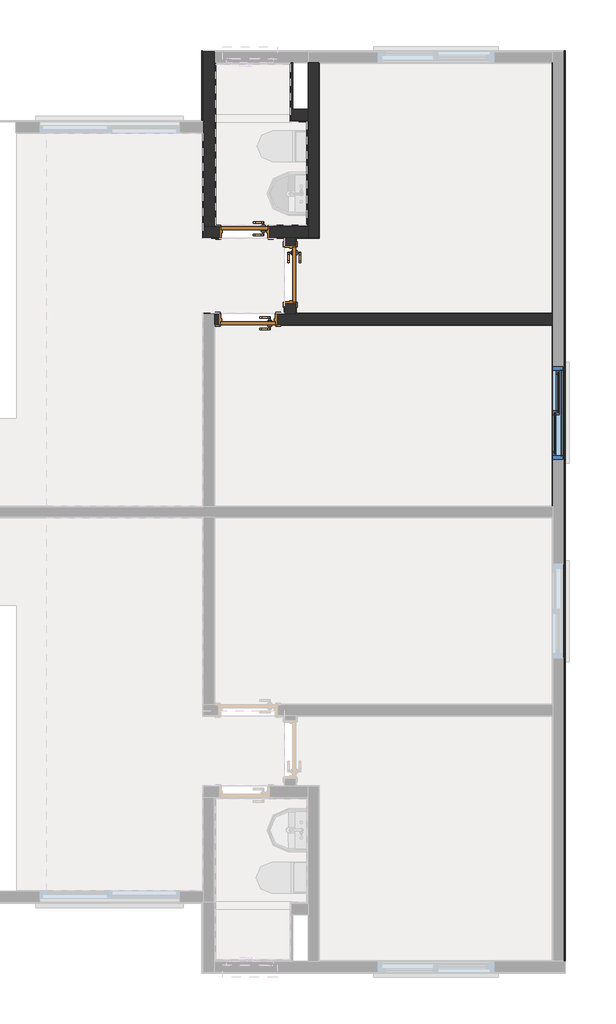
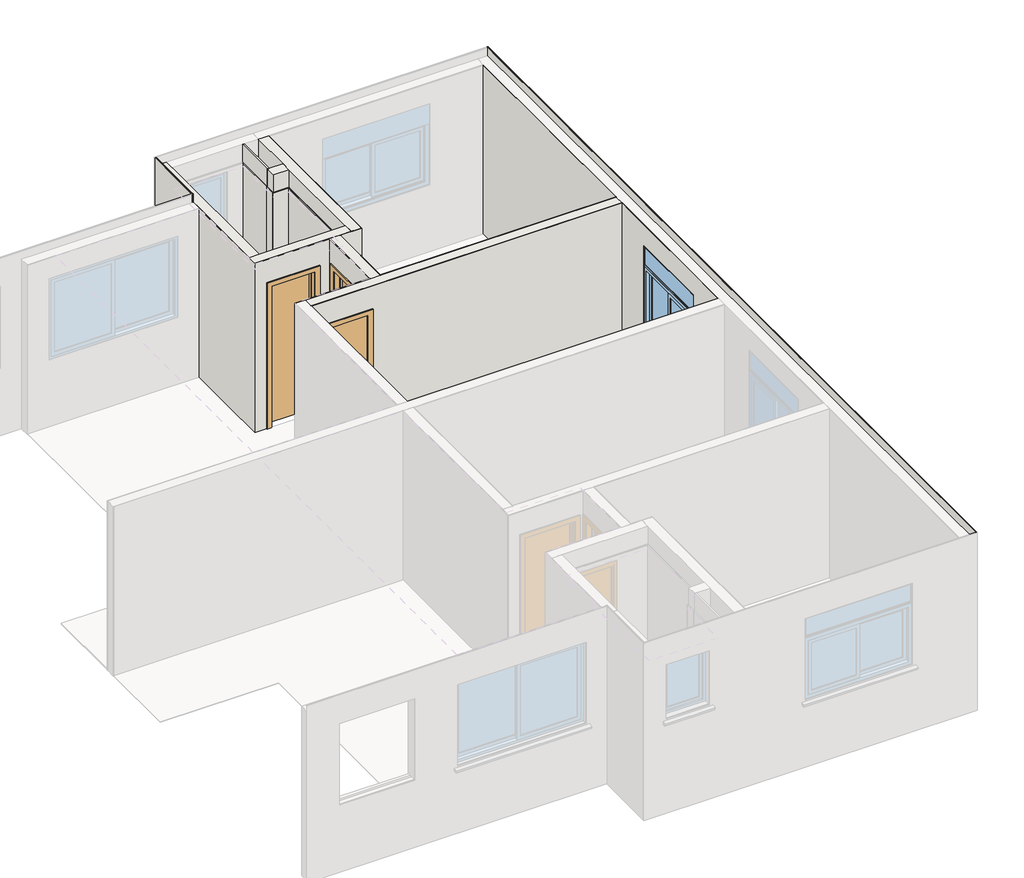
# One storey, part 9 of 11: 27 walls, 3 doors, 1 window.
"""IFC4 building model written with IfcOpenShell, lengths in millimetres."""

from ifc_helpers import new_model, si_unit, frame, origin, origin_with_axes, place, context, project, spatial, polyline, outline, extrude, faceted_brep, transform, mapped, element, save
from components import porta_de_madeira_interna_60_x_210_porta_de_madeira_interna_53f76a03, porta_de_madeira_interna_70_x_210_porta_de_madeira_interna_d0067c94, window_120x120_fed861a7

model = new_model("IFC4")

# Units and contexts
model_context = context("Model", 3, world=origin())
ifc_project = project(units=[si_unit("LENGTHUNIT", "METRE", prefix="MILLI")], contexts=[model_context])

# Site, building, storey
site = spatial("IfcSite", under=ifc_project)
building = spatial("IfcBuilding", under=site)
storey = spatial("IfcBuildingStorey", under=building, Name="Térreo", Elevation=0.0)

# Doors
placement = place(None, origin())
porta_de_madeira_interna_60_x_210_porta_de_madeira_interna_shape = porta_de_madeira_interna_60_x_210_porta_de_madeira_interna_53f76a03(model_context)
element("IfcDoor", 1, ObjectType="Porta de Madeira Interna 60 x 210 : Porta de Madeira Interna 60 x 210", at=placement, inside=storey, context=model_context, shape_type="MappedRepresentation", body=[
    mapped(porta_de_madeira_interna_60_x_210_porta_de_madeira_interna_shape, transform((16681.9956991, 10003.1988664, 0.0), x_axis=(-1.0, 0.0, 0.0), y_axis=(0.0, -1.0, 0.0), z_axis=(0.0, 0.0, 1.0))),
])
porta_de_madeira_interna_70_x_210_porta_de_madeira_interna_shape = porta_de_madeira_interna_70_x_210_porta_de_madeira_interna_d0067c94(model_context)
element("IfcDoor", 2, ObjectType="Porta de Madeira Interna 70 x 210 : Porta de Madeira Interna 70 x 210", at=placement, inside=storey, context=model_context, shape_type="MappedRepresentation", body=[
    mapped(porta_de_madeira_interna_70_x_210_porta_de_madeira_interna_shape, transform((17273.1716432, 9457.0248023, 0.0), x_axis=(0.0, -1.0, 0.0), y_axis=(1.0, 0.0, 0.0), z_axis=(0.0, 0.0, 1.0))),
])
element("IfcDoor", 3, ObjectType="Porta de Madeira Interna 70 x 210 : Porta de Madeira Interna 70 x 210", at=placement, inside=storey, context=model_context, shape_type="MappedRepresentation", body=[
    mapped(porta_de_madeira_interna_70_x_210_porta_de_madeira_interna_shape, transform((16726.9947994, 8876.8494803, 0.0), x_axis=(-1.0, 0.0, 0.0), y_axis=(0.0, -1.0, 0.0), z_axis=(0.0, 0.0, 1.0))),
])

# Walls
element("IfcWall", 4, ObjectType="Mureta box", at=placement, inside=storey, context=model_context, shape_type="SweptSolid", body=[
    extrude(outline(polyline([(16310.0007274, 11505.0235306), (17290.0007274, 11505.0235306), (17290.0007274, 11495.0235306), (16310.0007274, 11495.0235306), (16310.0007274, 11505.0235306)])), origin_with_axes(), (0.0, 0.0, 1.0), 90.0),
    extrude(outline(polyline([(17290.0007274, 11425.0235306), (16310.0007274, 11425.0235306), (16310.0007274, 11435.0235306), (17290.0007274, 11435.0235306), (17290.0007274, 11425.0235306)])), origin_with_axes(), (0.0, 0.0, 1.0), 90.0),
    extrude(outline(polyline([(16310.0007274, 11505.0235306), (17290.0007274, 11505.0235306), (17290.0007274, 11495.0235306), (16310.0007274, 11495.0235306), (16310.0007274, 11505.0235306)])), origin_with_axes(), (0.0, 0.0, 1.0), 90.0),
    extrude(outline(polyline([(17290.0007274, 11425.0235306), (16310.0007274, 11425.0235306), (16310.0007274, 11435.0235306), (17290.0007274, 11435.0235306), (17290.0007274, 11425.0235306)])), origin_with_axes(), (0.0, 0.0, 1.0), 90.0),
    extrude(outline(polyline([(17290.0007274, 11495.0235306), (17290.0007274, 11435.0235306), (16310.0007274, 11435.0235306), (16310.0007274, 11495.0235306), (17290.0007274, 11495.0235306)])), origin_with_axes(), (0.0, 0.0, 1.0), 90.0),
    extrude(outline(polyline([(17290.0007274, 11495.0235306), (17290.0007274, 11435.0235306), (16310.0007274, 11435.0235306), (16310.0007274, 11495.0235306), (17290.0007274, 11495.0235306)])), origin_with_axes(), (0.0, 0.0, 1.0), 90.0),
])
element("IfcWall", 5, ObjectType="Alvenaria Estrutural", at=placement, inside=storey, context=model_context, shape_type="Brep", body=[
    faceted_brep([(17339.9966432, 9930.0238664, 2510.0), (17339.9966432, 9924.0238664, 2510.0), (17339.9966432, 8950.0244803, 2510.0), (17339.9966432, 8950.0244803, 0.0), (17339.9966432, 9082.0248023, 0.0), (17339.9966432, 9082.0248023, 2125.0), (17339.9966432, 9832.0248023, 2125.0), (17339.9966432, 9832.0248023, 0.0), (17339.9966432, 9924.0238664, 0.0), (17339.9966432, 9930.0238664, 0.0), (17199.9966432, 8950.0244803, 2510.0), (17199.9966432, 8956.0244803, 2510.0), (17199.9966432, 9924.0238664, 2510.0), (17199.9966432, 9930.0238664, 2510.0), (17199.9966432, 9930.0238664, 0.0), (17199.9966432, 9924.0238664, 0.0), (17199.9966432, 9832.0248023, 0.0), (17199.9966432, 9832.0248023, 2125.0), (17199.9966432, 9082.0248023, 2125.0), (17199.9966432, 9082.0248023, 0.0), (17199.9966432, 8956.0244803, 0.0), (17199.9966432, 8950.0244803, 0.0)], [[[0, 1, 2, 3, 4, 5, 6, 7, 8, 9]], [[10, 11, 12, 13, 14, 15, 16, 17, 18, 19, 20, 21]], [[4, 3, 21, 20, 19]], [[1, 0, 13, 12, 11, 10, 2]], [[5, 4, 19, 18]], [[6, 5, 18, 17]], [[7, 6, 17, 16]], [[3, 2, 10, 21]], [[0, 9, 14, 13]], [[8, 7, 16, 15, 14, 9]]]),
    faceted_brep([(17339.9966432, 9924.0238664, 2510.0), (17339.9966432, 9930.0238664, 2510.0), (17199.9966432, 9930.0238664, 2510.0), (17199.9966432, 9924.0238664, 2510.0), (17199.9966432, 8956.0244803, 2510.0), (17199.9966432, 8950.0244803, 2510.0), (17339.9966432, 8950.0244803, 2510.0), (17339.9966432, 9082.0248023, 2125.0), (17339.9966432, 9082.0248023, 0.0), (17199.9966432, 9082.0248023, 0.0), (17199.9966432, 9082.0248023, 2125.0), (17339.9966432, 9832.0248023, 2125.0), (17199.9966432, 9832.0248023, 2125.0), (17339.9966432, 9832.0248023, 0.0), (17199.9966432, 9832.0248023, 0.0), (17339.9966432, 8950.0244803, 0.0), (17339.9966432, 9924.0238664, 0.0), (17339.9966432, 9930.0238664, 0.0), (17199.9966432, 9930.0238664, 0.0), (17199.9966432, 9924.0238664, 0.0), (17199.9966432, 8956.0244803, 0.0), (17199.9966432, 8950.0244803, 0.0)], [[[0, 1, 2, 3, 4, 5, 6]], [[7, 8, 9, 10]], [[11, 7, 10, 12]], [[13, 11, 12, 14]], [[1, 0, 6, 15, 8, 7, 11, 13, 16, 17]], [[5, 4, 3, 2, 18, 19, 14, 12, 10, 9, 20, 21]], [[8, 15, 21, 20, 9]], [[15, 6, 5, 21]], [[1, 17, 18, 2]], [[16, 13, 14, 19, 18, 17]]]),
])
element("IfcWall", 6, ObjectType="Alvenaria Estrutural", at=placement, inside=storey, context=model_context, shape_type="Brep", body=[
    faceted_brep([(17499.9970013, 12180.0252435, 0.0), (17499.9970013, 11580.0235306, 0.0), (17499.9970013, 11440.0235306, 0.0), (17499.9970013, 11420.0235306, 0.0), (17499.9970013, 10090.0238664, 0.0), (17499.9970013, 10070.0238664, 0.0), (17499.9970013, 9930.025593, 0.0), (17499.9970013, 9930.025593, 2510.0), (17499.9970013, 10070.0238664, 2510.0), (17499.9970013, 11440.0235306, 2510.0), (17499.9970013, 11580.0235306, 2510.0), (17499.9970013, 12180.0252435, 2510.0), (17639.9970013, 12180.0252435, 0.0), (17639.9970013, 12180.0252435, 2510.0), (17639.9970013, 12174.0253822, 2510.0), (17639.9970013, 9930.025593, 2510.0), (17639.9970013, 9930.025593, 0.0), (17639.9970013, 12174.0253822, 0.0)], [[[0, 1, 2, 3, 4, 5, 6, 7, 8, 9, 10, 11]], [[12, 13, 14, 15, 16, 17]], [[1, 0, 12, 17, 16, 6, 5, 4, 3, 2]], [[7, 6, 16, 15]], [[8, 7, 15, 14, 13, 11, 10, 9]], [[0, 11, 13, 12]]]),
    faceted_brep([(17639.9970013, 12180.0252435, 0.0), (17639.9970013, 12180.0252435, 2510.0), (17639.9970013, 12174.0253822, 2510.0), (17639.9970013, 9930.025593, 2510.0), (17639.9970013, 9930.025593, 0.0), (17639.9970013, 12174.0253822, 0.0), (17499.9970013, 11580.0235306, 0.0), (17499.9970013, 12180.0252435, 0.0), (17499.9970013, 9930.025593, 0.0), (17499.9970013, 10070.0238664, 0.0), (17499.9970013, 10090.0238664, 0.0), (17499.9970013, 11420.0235306, 0.0), (17499.9970013, 11440.0235306, 0.0), (17499.9970013, 9930.025593, 2510.0), (17499.9970013, 10070.0238664, 2510.0), (17499.9970013, 12180.0252435, 2510.0), (17499.9970013, 11580.0235306, 2510.0), (17499.9970013, 11440.0235306, 2510.0)], [[[0, 1, 2, 3, 4, 5]], [[6, 7, 0, 5, 4, 8, 9, 10, 11, 12]], [[13, 8, 4, 3]], [[14, 13, 3, 2, 1, 15, 16, 17]], [[7, 6, 12, 11, 10, 9, 8, 13, 14, 17, 16, 15]], [[7, 15, 1, 0]]]),
])
element("IfcWall", 7, ObjectType="Alvenaria Estrutural", at=placement, inside=storey, context=model_context, shape_type="Brep", body=[
    faceted_brep([(17499.9970013, 11580.0235306, 0.0), (17303.0007274, 11580.0235306, 0.0), (17280.0007274, 11580.0235306, 0.0), (17280.0007274, 11580.0235306, 2510.0), (17303.0007274, 11580.0235306, 2510.0), (17499.9970013, 11580.0235306, 2510.0), (17499.9970013, 11440.0235306, 0.0), (17499.9970013, 11440.0235306, 2510.0), (17280.0007274, 11440.0235306, 2510.0), (17280.0007274, 11440.0235306, 0.0)], [[[0, 1, 2, 3, 4, 5]], [[6, 7, 8, 9]], [[1, 0, 6, 9, 2]], [[4, 3, 8, 7, 5]], [[3, 2, 9, 8]], [[0, 5, 7, 6]]]),
    faceted_brep([(17499.9970013, 11440.0235306, 0.0), (17499.9970013, 11440.0235306, 2510.0), (17280.0007274, 11440.0235306, 2510.0), (17280.0007274, 11440.0235306, 0.0), (17303.0007274, 11580.0235306, 0.0), (17499.9970013, 11580.0235306, 0.0), (17280.0007274, 11580.0235306, 0.0), (17303.0007274, 11580.0235306, 2510.0), (17280.0007274, 11580.0235306, 2510.0), (17499.9970013, 11580.0235306, 2510.0)], [[[0, 1, 2, 3]], [[4, 5, 0, 3, 6]], [[7, 8, 2, 1, 9]], [[5, 4, 6, 8, 7, 9]], [[8, 6, 3, 2]], [[5, 9, 1, 0]]]),
])
element("IfcWall", 8, ObjectType="Alvenaria Estrutural", at=placement, inside=storey, context=model_context, shape_type="Brep", body=[
    faceted_brep([(16149.9960602, 10070.0238664, 2510.0), (16289.9960602, 10070.0238664, 2510.0), (17499.9970013, 10070.0238664, 2510.0), (17499.9970013, 10070.0238664, 2250.0), (17499.9970013, 10070.0238664, 0.0), (17006.9956991, 10070.0238664, 0.0), (17006.9956991, 10070.0238664, 2125.0), (16356.9956991, 10070.0238664, 2125.0), (16356.9956991, 10070.0238664, 0.0), (16289.9960602, 10070.0238664, 0.0), (16149.9960602, 10070.0238664, 0.0), (17499.9970013, 9930.0238664, 2510.0), (17339.9966432, 9930.0238664, 2510.0), (17199.9966432, 9930.0238664, 2510.0), (17193.9966432, 9930.0238664, 2510.0), (16149.9960602, 9930.0238664, 2510.0), (16149.9960602, 9930.0238664, 0.0), (16356.9956991, 9930.0238664, 0.0), (16356.9956991, 9930.0238664, 2125.0), (17006.9956991, 9930.0238664, 2125.0), (17006.9956991, 9930.0238664, 0.0), (17193.9966432, 9930.0238664, 0.0), (17199.9966432, 9930.0238664, 0.0), (17339.9966432, 9930.0238664, 0.0), (17499.9970013, 9930.0238664, 0.0)], [[[0, 1, 2, 3, 4, 5, 6, 7, 8, 9, 10]], [[11, 12, 13, 14, 15, 16, 17, 18, 19, 20, 21, 22, 23, 24]], [[5, 4, 24, 23, 22, 21, 20]], [[1, 0, 15, 14, 13, 12, 11, 2]], [[8, 7, 18, 17]], [[7, 6, 19, 18]], [[6, 5, 20, 19]], [[0, 10, 16, 15]], [[3, 2, 11, 24, 4]], [[9, 8, 17, 16, 10]]]),
    faceted_brep([(17006.9956991, 10070.0238664, 0.0), (17499.9970013, 10070.0238664, 0.0), (17499.9970013, 9930.0238664, 0.0), (17339.9966432, 9930.0238664, 0.0), (17199.9966432, 9930.0238664, 0.0), (17193.9966432, 9930.0238664, 0.0), (17006.9956991, 9930.0238664, 0.0), (16289.9960602, 10070.0238664, 2510.0), (16149.9960602, 10070.0238664, 2510.0), (16149.9960602, 9930.0238664, 2510.0), (17193.9966432, 9930.0238664, 2510.0), (17199.9966432, 9930.0238664, 2510.0), (17339.9966432, 9930.0238664, 2510.0), (17499.9970013, 9930.0238664, 2510.0), (17499.9970013, 10070.0238664, 2510.0), (16356.9956991, 10070.0238664, 0.0), (16356.9956991, 10070.0238664, 2125.0), (16356.9956991, 9930.0238664, 2125.0), (16356.9956991, 9930.0238664, 0.0), (17006.9956991, 10070.0238664, 2125.0), (17006.9956991, 9930.0238664, 2125.0), (16289.9960602, 10070.0238664, 0.0), (16149.9960602, 9930.0238664, 0.0), (16149.9960602, 10070.0238664, 0.0), (17499.9970013, 10070.0238664, 2250.0)], [[[0, 1, 2, 3, 4, 5, 6]], [[7, 8, 9, 10, 11, 12, 13, 14]], [[15, 16, 17, 18]], [[16, 19, 20, 17]], [[19, 0, 6, 20]], [[21, 15, 18, 22, 23]], [[8, 7, 14, 24, 1, 0, 19, 16, 15, 21, 23]], [[13, 12, 11, 10, 9, 22, 18, 17, 20, 6, 5, 4, 3, 2]], [[8, 23, 22, 9]], [[24, 14, 13, 2, 1]]]),
])
element("IfcWall", 9, ObjectType="Alvenaria Estrutural", at=placement, inside=storey, context=model_context, shape_type="Brep", body=[
    faceted_brep([(16149.9960602, 12320.025593, 0.0), (16149.9960602, 11436.0223004, 0.0), (16149.9960602, 11420.0223004, 0.0), (16149.9960602, 11280.0223004, 0.0), (16149.9960602, 11274.0223004, 0.0), (16149.9960602, 10070.0238664, 0.0), (16149.9960602, 10070.0238664, 2510.0), (16149.9960602, 11274.0223004, 2510.0), (16149.9960602, 11280.0223004, 2510.0), (16149.9960602, 11420.0223004, 2510.0), (16149.9960602, 12320.025593, 2510.0), (16289.9960602, 12320.025593, 0.0), (16289.9960602, 12320.025593, 2510.0), (16289.9960602, 12180.025593, 2510.0), (16289.9960602, 10070.0238664, 2510.0), (16289.9960602, 10070.0238664, 2250.0), (16289.9960602, 10070.0238664, 0.0), (16289.9960602, 10090.0238664, 0.0), (16289.9960602, 12180.025593, 0.0)], [[[0, 1, 2, 3, 4, 5, 6, 7, 8, 9, 10]], [[11, 12, 13, 14, 15, 16, 17, 18]], [[1, 0, 11, 18, 17, 16, 5, 4, 3, 2]], [[7, 6, 14, 13, 12, 10, 9, 8]], [[0, 10, 12, 11]], [[6, 5, 16, 15, 14]]]),
    faceted_brep([(16149.9960602, 11436.0223004, 0.0), (16149.9960602, 12320.025593, 0.0), (16289.9960602, 12320.025593, 0.0), (16289.9960602, 12180.025593, 0.0), (16289.9960602, 10090.0238664, 0.0), (16289.9960602, 10070.0238664, 0.0), (16149.9960602, 10070.0238664, 0.0), (16149.9960602, 11274.0223004, 0.0), (16149.9960602, 11280.0223004, 0.0), (16149.9960602, 11420.0223004, 0.0), (16149.9960602, 11274.0223004, 2510.0), (16149.9960602, 10070.0238664, 2510.0), (16289.9960602, 10070.0238664, 2510.0), (16289.9960602, 12180.025593, 2510.0), (16289.9960602, 12320.025593, 2510.0), (16149.9960602, 12320.025593, 2510.0), (16149.9960602, 11420.0223004, 2510.0), (16149.9960602, 11280.0223004, 2510.0), (16289.9960602, 10070.0238664, 2250.0)], [[[0, 1, 2, 3, 4, 5, 6, 7, 8, 9]], [[10, 11, 12, 13, 14, 15, 16, 17]], [[1, 0, 9, 8, 7, 6, 11, 10, 17, 16, 15]], [[2, 14, 13, 12, 18, 5, 4, 3]], [[1, 15, 14, 2]], [[11, 6, 5, 18, 12]]]),
])
element("IfcWall", 10, ObjectType="Alvenaria Estrutural", at=placement, inside=storey, context=model_context, shape_type="Brep", body=[
    faceted_brep([(20649.9955249, 8810.0244803, 2510.0), (20643.9955249, 8810.0244803, 2510.0), (16295.9950207, 8810.0244803, 2510.0), (16289.9950207, 8810.0244803, 2510.0), (16289.9950207, 8810.0244803, 0.0), (16295.9950207, 8810.0244803, 0.0), (16351.9947994, 8810.0244803, 0.0), (16351.9947994, 8810.0244803, 2125.0), (17101.9947994, 8810.0244803, 2125.0), (17101.9947994, 8810.0244803, 0.0), (20643.9955249, 8810.0244803, 0.0), (20649.9955249, 8810.0244803, 0.0), (16289.9950207, 8950.0244803, 2510.0), (17193.9966432, 8950.0244803, 2510.0), (17199.9966432, 8950.0244803, 2510.0), (17339.9966432, 8950.0244803, 2510.0), (17345.9966432, 8950.0244803, 2510.0), (20643.9955249, 8950.0244803, 2510.0), (20649.9955249, 8950.0244803, 2510.0), (20649.9955249, 8950.0244803, 0.0), (20643.9955249, 8950.0244803, 0.0), (17345.9966432, 8950.0244803, 0.0), (17339.9966432, 8950.0244803, 0.0), (17199.9966432, 8950.0244803, 0.0), (17193.9966432, 8950.0244803, 0.0), (17101.9947994, 8950.0244803, 0.0), (17101.9947994, 8950.0244803, 2125.0), (16351.9947994, 8950.0244803, 2125.0), (16351.9947994, 8950.0244803, 0.0), (16289.9950207, 8950.0244803, 0.0)], [[[0, 1, 2, 3, 4, 5, 6, 7, 8, 9, 10, 11]], [[12, 13, 14, 15, 16, 17, 18, 19, 20, 21, 22, 23, 24, 25, 26, 27, 28, 29]], [[5, 4, 29, 28, 6]], [[1, 0, 18, 17, 16, 15, 14, 13, 12, 3, 2]], [[7, 6, 28, 27]], [[8, 7, 27, 26]], [[9, 8, 26, 25]], [[4, 3, 12, 29]], [[0, 11, 19, 18]], [[10, 9, 25, 24, 23, 22, 21, 20, 19, 11]]]),
])
element("IfcWall", 11, ObjectType="Azulejo", at=placement, inside=storey, context=model_context, shape_type="SolidModel", body=[
    faceted_brep([(17006.9956991, 10080.0238664, 0.0), (17006.9956991, 10090.0238664, 0.0), (17479.9970535, 10090.0238664, 0.0), (17489.9970535, 10090.0238664, 0.0), (17489.9970535, 10080.0238664, 0.0), (17479.9970535, 10090.0238664, 2250.0), (16309.9956991, 10090.0238664, 2250.0), (16299.9956991, 10090.0238664, 2250.0), (16299.9956991, 10080.0238664, 2250.0), (17489.9970535, 10080.0238664, 2250.0), (17489.9970535, 10090.0238664, 2250.0), (16356.9956991, 10090.0238664, 0.0), (16356.9956991, 10090.0238664, 2125.0), (16356.9956991, 10080.0238664, 2125.0), (16356.9956991, 10080.0238664, 0.0), (17006.9956991, 10090.0238664, 2125.0), (17006.9956991, 10080.0238664, 2125.0), (16299.9956991, 10080.0238664, 0.0), (16299.9956991, 10090.0238664, 0.0), (16309.9956991, 10090.0238664, 0.0)], [[[0, 1, 2, 3, 4]], [[5, 6, 7, 8, 9, 10]], [[11, 12, 13, 14]], [[13, 12, 15, 16]], [[1, 0, 16, 15]], [[11, 14, 17, 18, 19]], [[14, 13, 16, 0, 4, 9, 8, 17]], [[2, 1, 15, 12, 11, 19, 18, 7, 6, 5, 10, 3]], [[4, 3, 10, 9]], [[8, 7, 18, 17]]]),
    extrude(outline(polyline([(2250.0, 17499.9970013), (2250.0, 16289.9960602), (0.0, 16289.9960602), (0.0, 16356.9956991), (2125.0, 16356.9956991), (2125.0, 17006.9956991), (0.0, 17006.9956991), (0.0, 17499.9970013), (2250.0, 17499.9970013)])), frame((0.0, 10070.0238664, 0.0), z_axis=(0.0, 1.0, 0.0), x_axis=(0.0, 0.0, 1.0)), (0.0, 0.0, 1.0), 10.0),
])
element("IfcWall", 12, ObjectType="Azulejo", at=placement, inside=storey, context=model_context, shape_type="SolidModel", body=[
    faceted_brep([(16309.9956991, 12160.025593, 0.0), (16309.9956991, 10090.0238664, 0.0), (16299.9956991, 10090.0238664, 0.0), (16299.9956991, 12170.025593, 0.0), (16309.9956991, 12170.025593, 0.0), (16299.9956991, 10090.0238664, 2250.0), (16309.9956991, 10090.0238664, 2250.0), (16309.9956991, 12160.025593, 2250.0), (16309.9956991, 12170.025593, 2250.0), (16299.9956991, 12170.025593, 2250.0)], [[[0, 1, 2, 3, 4]], [[5, 6, 7, 8, 9]], [[2, 1, 6, 5]], [[2, 5, 9, 3]], [[1, 0, 4, 8, 7, 6]], [[4, 3, 9, 8]]]),
    extrude(outline(polyline([(16289.9956991, 10080.0238664), (16289.9956991, 12180.025593), (16299.9956991, 12180.025593), (16299.9956991, 10080.0238664), (16289.9956991, 10080.0238664)])), origin_with_axes(), (0.0, 0.0, 1.0), 2250.0),
])
element("IfcWall", 13, ObjectType="Azulejo", at=placement, inside=storey, context=model_context, shape_type="SweptSolid", body=[
    extrude(outline(polyline([(17270.0007274, 11430.0235306), (17270.0007274, 11580.0235306), (17280.0007274, 11580.0235306), (17280.0007274, 11430.0235306), (17270.0007274, 11430.0235306)])), origin_with_axes(), (0.0, 0.0, 1.0), 2250.0),
    extrude(outline(polyline([(17290.0007274, 11580.0235306), (17290.0007274, 11440.0235306), (17280.0007274, 11440.0235306), (17280.0007274, 11580.0235306), (17290.0007274, 11580.0235306)])), origin_with_axes(), (0.0, 0.0, 1.0), 2250.0),
])
element("IfcWall", 14, ObjectType="Azulejo", at=placement, inside=storey, context=model_context, shape_type="Brep", body=[
    faceted_brep([(17479.9970535, 11420.0235306, 0.0), (17270.0007274, 11420.0235306, 0.0), (17270.0007274, 11430.0235306, 0.0), (17489.9970535, 11430.0235306, 0.0), (17489.9970535, 11420.0235306, 0.0), (17270.0007274, 11430.0235306, 2250.0), (17270.0007274, 11420.0235306, 2250.0), (17479.9970535, 11420.0235306, 2250.0), (17489.9970535, 11420.0235306, 2250.0), (17489.9970535, 11430.0235306, 2250.0)], [[[0, 1, 2, 3, 4]], [[5, 6, 7, 8, 9]], [[2, 1, 6, 5]], [[2, 5, 9, 3]], [[1, 0, 4, 8, 7, 6]], [[4, 3, 9, 8]]]),
    faceted_brep([(17280.0007274, 11430.0235306, 0.0), (17499.9970013, 11430.0235306, 0.0), (17499.9970013, 11430.0235306, 2250.0), (17280.0007274, 11430.0235306, 2250.0), (17499.9970013, 11440.0235306, 0.0), (17290.0007274, 11440.0235306, 0.0), (17280.0007274, 11440.0235306, 0.0), (17280.0007274, 11440.0235306, 2250.0), (17290.0007274, 11440.0235306, 2250.0), (17499.9970013, 11440.0235306, 2250.0)], [[[0, 1, 2, 3]], [[4, 5, 6, 7, 8, 9]], [[5, 4, 1, 0, 6]], [[8, 7, 3, 2, 9]], [[4, 9, 2, 1]], [[7, 6, 0, 3]]]),
])
element("IfcWall", 15, ObjectType="Azulejo", at=placement, inside=storey, context=model_context, shape_type="SweptSolid", body=[
    extrude(outline(polyline([(17479.9970535, 10090.0238664), (17479.9970535, 11420.0235306), (17489.9970535, 11420.0235306), (17489.9970535, 10090.0238664), (17479.9970535, 10090.0238664)])), origin_with_axes(), (0.0, 0.0, 1.0), 2250.0),
    extrude(outline(polyline([(17499.9970535, 11430.0235306), (17499.9970535, 10080.0238664), (17489.9970535, 10080.0238664), (17489.9970535, 11430.0235306), (17499.9970535, 11430.0235306)])), origin_with_axes(), (0.0, 0.0, 1.0), 2250.0),
])
element("IfcWall", 16, ObjectType="Azulejo - Shaft", at=placement, inside=storey, context=model_context, shape_type="SweptSolid", body=[
    extrude(outline(polyline([(17270.0007274, 11580.0235306), (17270.0007274, 12160.025593), (17280.0007274, 12160.025593), (17280.0007274, 11580.0235306), (17270.0007274, 11580.0235306)])), origin_with_axes(), (0.0, 0.0, 1.0), 2250.0),
])
element("IfcWall", 17, ObjectType="Gesso Liso + Pintura", at=placement, inside=storey, context=model_context, shape_type="SweptSolid", body=[
    extrude(outline(polyline([(6470.0103139, 0.0), (6470.0103139, 2510.0), (8810.0244803, 2510.0), (8810.0244803, 0.0), (6470.0103139, 0.0)]), holes=[polyline([(7075.01044, 1000.0), (8275.01044, 1000.0), (8275.01044, 2200.0), (7075.01044, 2200.0), (7075.01044, 1000.0)])]), frame((20643.9955249, 0.0, 0.0), z_axis=(1.0, 0.0, 0.0), x_axis=(0.0, 1.0, 0.0)), (0.0, 0.0, 1.0), 1.0),
    extrude(outline(polyline([(8810.0244803, 0.0), (6470.0103139, 0.0), (6470.0103139, 2510.0), (8810.0244803, 2510.0), (8810.0244803, 0.0)]), holes=[polyline([(7075.01044, 2200.0), (7075.01044, 1000.0), (8275.01044, 1000.0), (8275.01044, 2200.0), (7075.01044, 2200.0)])]), frame((20644.9955249, 0.0, 0.0), z_axis=(1.0, 0.0, 0.0), x_axis=(0.0, 1.0, 0.0)), (0.0, 0.0, 1.0), 5.0),
])
element("IfcWall", 18, ObjectType="Gesso Liso + Pintura", at=placement, inside=storey, context=model_context, shape_type="SweptSolid", body=[
    extrude(outline(polyline([(2510.0, 20649.9955249), (2510.0, 16289.9950207), (0.0, 16289.9950207), (0.0, 16351.9947994), (2125.0, 16351.9947994), (2125.0, 17101.9947994), (0.0, 17101.9947994), (0.0, 20649.9955249), (2510.0, 20649.9955249)])), frame((0.0, 8804.0244803, 0.0), z_axis=(0.0, 1.0, 0.0), x_axis=(0.0, 0.0, 1.0)), (0.0, 0.0, 1.0), 1.0),
    extrude(outline(polyline([(0.0, 17101.9947994), (0.0, 20649.9955249), (2510.0, 20649.9955249), (2510.0, 16289.9950207), (0.0, 16289.9950207), (0.0, 16351.9947994), (2125.0, 16351.9947994), (2125.0, 17101.9947994), (0.0, 17101.9947994)])), frame((0.0, 8805.0244803, 0.0), z_axis=(0.0, 1.0, 0.0), x_axis=(0.0, 0.0, 1.0)), (0.0, 0.0, 1.0), 5.0),
])
element("IfcWall", 19, ObjectType="Gesso Liso + Pintura", at=placement, inside=storey, context=model_context, shape_type="SolidModel", body=[
    faceted_brep([(20644.9955249, 8950.0244803, 0.0), (20643.9955249, 8950.0244803, 0.0), (20643.9955249, 12174.0253822, 0.0), (20643.9955249, 12175.0253822, 0.0), (20644.9955249, 12175.0253822, 0.0), (20643.9955249, 12174.0253822, 2510.0), (20643.9955249, 8950.0244803, 2510.0), (20644.9955249, 8950.0244803, 2510.0), (20644.9955249, 12175.0253822, 2510.0), (20643.9955249, 12175.0253822, 2510.0)], [[[0, 1, 2, 3, 4]], [[5, 6, 7, 8, 9]], [[1, 0, 7, 6]], [[7, 0, 4, 8]], [[2, 1, 6, 5, 9, 3]], [[4, 3, 9, 8]]]),
    extrude(outline(polyline([(20649.9955249, 12180.0252435), (20649.9955249, 8950.0244803), (20644.9955249, 8950.0244803), (20644.9955249, 12180.0252435), (20649.9955249, 12180.0252435)])), origin_with_axes(), (0.0, 0.0, 1.0), 2510.0),
])
element("IfcWall", 20, ObjectType="Gesso Liso + Pintura", at=placement, inside=storey, context=model_context, shape_type="SolidModel", body=[
    extrude(outline(polyline([(17645.9970535, 12174.0253822), (17645.9970535, 9924.0238664), (17644.9970535, 9924.0238664), (17644.9970535, 12174.0253822), (17645.9970535, 12174.0253822)])), origin_with_axes(), (0.0, 0.0, 1.0), 2510.0),
    faceted_brep([(17644.9970535, 9925.0238664, 0.0), (17644.9970535, 12175.0253822, 0.0), (17644.9970535, 12175.0253822, 2510.0), (17644.9970535, 9925.0238664, 2510.0), (17639.9970535, 12175.0253822, 0.0), (17639.9970535, 9930.0238664, 0.0), (17639.9970535, 9925.0238664, 0.0), (17639.9970535, 9925.0238664, 2510.0), (17639.9970535, 9930.0238664, 2510.0), (17639.9970535, 12175.0253822, 2510.0)], [[[0, 1, 2, 3]], [[4, 5, 6, 7, 8, 9]], [[5, 4, 1, 0, 6]], [[8, 7, 3, 2, 9]], [[4, 9, 2, 1]], [[7, 6, 0, 3]]]),
])
element("IfcWall", 21, ObjectType="Gesso Liso + Pintura", at=placement, inside=storey, context=model_context, shape_type="SolidModel", body=[
    faceted_brep([(17644.9970535, 9924.0238664, 0.0), (17345.9966432, 9924.0238664, 0.0), (17344.9966432, 9924.0238664, 0.0), (17344.9966432, 9925.0238664, 0.0), (17644.9970535, 9925.0238664, 0.0), (17345.9966432, 9924.0238664, 2510.0), (17644.9970535, 9924.0238664, 2510.0), (17644.9970535, 9925.0238664, 2510.0), (17344.9966432, 9925.0238664, 2510.0), (17344.9966432, 9924.0238664, 2510.0)], [[[0, 1, 2, 3, 4]], [[5, 6, 7, 8, 9]], [[7, 4, 3, 8]], [[1, 0, 6, 5, 9, 2]], [[6, 0, 4, 7]], [[3, 2, 9, 8]]]),
    extrude(outline(polyline([(17339.9966432, 9930.0238664), (17639.9970535, 9930.0238664), (17639.9970535, 9925.0238664), (17339.9966432, 9925.0238664), (17339.9966432, 9930.0238664)])), origin_with_axes(), (0.0, 0.0, 1.0), 2510.0),
])
element("IfcWall", 22, ObjectType="Gesso Liso + Pintura", at=placement, inside=storey, context=model_context, shape_type="SolidModel", body=[
    faceted_brep([(17345.9966432, 9924.0238664, 0.0), (17345.9966432, 9832.0248023, 0.0), (17344.9966432, 9832.0248023, 0.0), (17344.9966432, 9924.0238664, 0.0), (17345.9966432, 8956.0244803, 2510.0), (17345.9966432, 9924.0238664, 2510.0), (17344.9966432, 9924.0238664, 2510.0), (17344.9966432, 8955.0244803, 2510.0), (17345.9966432, 8955.0244803, 2510.0), (17345.9966432, 9082.0248023, 2125.0), (17345.9966432, 9082.0248023, 0.0), (17344.9966432, 9082.0248023, 0.0), (17344.9966432, 9082.0248023, 2125.0), (17344.9966432, 9832.0248023, 2125.0), (17345.9966432, 9832.0248023, 2125.0), (17345.9966432, 8956.0244803, 0.0), (17345.9966432, 8955.0244803, 0.0), (17344.9966432, 8955.0244803, 0.0)], [[[0, 1, 2, 3]], [[4, 5, 6, 7, 8]], [[9, 10, 11, 12]], [[9, 12, 13, 14]], [[2, 1, 14, 13]], [[0, 3, 6, 5]], [[11, 10, 15, 16, 17]], [[3, 2, 13, 12, 11, 17, 7, 6]], [[1, 0, 5, 4, 8, 16, 15, 10, 9, 14]], [[8, 7, 17, 16]]]),
    extrude(outline(polyline([(8950.0244803, 2510.0), (9925.0238664, 2510.0), (9925.0238664, 0.0), (9832.0248023, 0.0), (9832.0248023, 2125.0), (9082.0248023, 2125.0), (9082.0248023, 0.0), (8950.0244803, 0.0), (8950.0244803, 2510.0)])), frame((17339.9966432, 0.0, 0.0), z_axis=(1.0, 0.0, 0.0), x_axis=(0.0, 1.0, 0.0)), (0.0, 0.0, 1.0), 5.0),
])
element("IfcWall", 23, ObjectType="Gesso Liso + Pintura", at=placement, inside=storey, context=model_context, shape_type="SweptSolid", body=[
    extrude(outline(polyline([(17345.9966432, 8956.0244803), (20649.9955249, 8956.0244803), (20649.9955249, 8955.0244803), (17345.9966432, 8955.0244803), (17345.9966432, 8956.0244803)])), origin_with_axes(), (0.0, 0.0, 1.0), 2510.0),
    extrude(outline(polyline([(20649.9955249, 8950.0244803), (17344.9966432, 8950.0244803), (17344.9966432, 8955.0244803), (20649.9955249, 8955.0244803), (20649.9955249, 8950.0244803)])), origin_with_axes(), (0.0, 0.0, 1.0), 2510.0),
])
element("IfcWall", 24, ObjectType="Gesso Liso + Pintura", at=placement, inside=storey, context=model_context, shape_type="SolidModel", body=[
    extrude(outline(polyline([(16143.9956991, 9924.0238664), (16143.9956991, 11280.0223004), (16144.9956991, 11280.0223004), (16144.9956991, 9924.0238664), (16143.9956991, 9924.0238664)])), origin_with_axes(), (0.0, 0.0, 1.0), 2510.0),
    faceted_brep([(16144.9956991, 11280.0223004, 0.0), (16144.9956991, 9925.0238664, 0.0), (16144.9956991, 9925.0238664, 2510.0), (16144.9956991, 11280.0223004, 2510.0), (16149.9956991, 11280.0223004, 0.0), (16149.9956991, 11280.0223004, 2510.0), (16149.9956991, 9930.0238664, 2510.0), (16149.9956991, 9925.0238664, 2510.0), (16149.9956991, 9925.0238664, 0.0), (16149.9956991, 9930.0238664, 0.0)], [[[0, 1, 2, 3]], [[4, 5, 6, 7, 8, 9]], [[9, 8, 1, 0, 4]], [[6, 5, 3, 2, 7]], [[5, 4, 0, 3]], [[8, 7, 2, 1]]]),
])
element("IfcWall", 25, ObjectType="Gesso Liso + Pintura", at=placement, inside=storey, context=model_context, shape_type="SweptSolid", body=[
    extrude(outline(polyline([(2510.0, 17199.9966432), (2510.0, 16144.9956991), (0.0, 16144.9956991), (0.0, 16356.9956991), (2125.0, 16356.9956991), (2125.0, 17006.9956991), (0.0, 17006.9956991), (0.0, 17199.9966432), (2510.0, 17199.9966432)])), frame((0.0, 9924.0238664, 0.0), z_axis=(0.0, 1.0, 0.0), x_axis=(0.0, 0.0, 1.0)), (0.0, 0.0, 1.0), 1.0),
    extrude(outline(polyline([(0.0, 16149.9956991), (0.0, 16356.9956991), (2125.0, 16356.9956991), (2125.0, 17006.9956991), (0.0, 17006.9956991), (0.0, 17199.9966432), (2510.0, 17199.9966432), (2510.0, 16149.9956991), (0.0, 16149.9956991)])), frame((0.0, 9925.0238664, 0.0), z_axis=(0.0, 1.0, 0.0), x_axis=(0.0, 0.0, 1.0)), (0.0, 0.0, 1.0), 5.0),
])
element("IfcWall", 26, ObjectType="Gesso Liso + Pintura", at=placement, inside=storey, context=model_context, shape_type="SweptSolid", body=[
    extrude(outline(polyline([(8950.0244803, 2510.0), (9930.0238664, 2510.0), (9930.0238664, 0.0), (9832.0248023, 0.0), (9832.0248023, 2125.0), (9082.0248023, 2125.0), (9082.0248023, 0.0), (8950.0244803, 0.0), (8950.0244803, 2510.0)])), frame((17193.9966432, 0.0, 0.0), z_axis=(1.0, 0.0, 0.0), x_axis=(0.0, 1.0, 0.0)), (0.0, 0.0, 1.0), 1.0),
    extrude(outline(polyline([(9930.0238664, 0.0), (9832.0248023, 0.0), (9832.0248023, 2125.0), (9082.0248023, 2125.0), (9082.0248023, 0.0), (8950.0244803, 0.0), (8950.0244803, 2510.0), (9930.0238664, 2510.0), (9930.0238664, 0.0)])), frame((17194.9966432, 0.0, 0.0), z_axis=(1.0, 0.0, 0.0), x_axis=(0.0, 1.0, 0.0)), (0.0, 0.0, 1.0), 5.0),
])
element("IfcWall", 27, ObjectType="Gesso Liso + Pintura", at=placement, inside=storey, context=model_context, shape_type="SolidModel", body=[
    extrude(outline(polyline([(0.0, 17101.9947994), (0.0, 17199.9966432), (2510.0, 17199.9966432), (2510.0, 16144.9950207), (0.0, 16144.9950207), (0.0, 16351.9947994), (2125.0, 16351.9947994), (2125.0, 17101.9947994), (0.0, 17101.9947994)])), frame((0.0, 8955.0244803, 0.0), z_axis=(0.0, 1.0, 0.0), x_axis=(0.0, 0.0, 1.0)), (0.0, 0.0, 1.0), 1.0),
    faceted_brep([(17199.9966432, 8955.0244803, 0.0), (17101.9947994, 8955.0244803, 0.0), (17101.9947994, 8955.0244803, 2125.0), (16351.9947994, 8955.0244803, 2125.0), (16351.9947994, 8955.0244803, 0.0), (16149.9950207, 8955.0244803, 0.0), (16149.9950207, 8955.0244803, 2510.0), (17199.9966432, 8955.0244803, 2510.0), (17199.9966432, 8950.0244803, 2510.0), (16289.9950207, 8950.0244803, 2510.0), (16149.9950207, 8950.0244803, 2510.0), (16149.9950207, 8950.0244803, 0.0), (16289.9950207, 8950.0244803, 0.0), (16351.9947994, 8950.0244803, 0.0), (16351.9947994, 8950.0244803, 2125.0), (17101.9947994, 8950.0244803, 2125.0), (17101.9947994, 8950.0244803, 0.0), (17199.9966432, 8950.0244803, 0.0)], [[[0, 1, 2, 3, 4, 5, 6, 7]], [[8, 9, 10, 11, 12, 13, 14, 15, 16, 17]], [[17, 16, 1, 0]], [[9, 8, 7, 6, 10]], [[14, 13, 4, 3]], [[15, 14, 3, 2]], [[16, 15, 2, 1]], [[11, 10, 6, 5]], [[8, 17, 0, 7]], [[12, 11, 5, 4, 13]]]),
])
element("IfcWall", 28, ObjectType="Reboco + Pintura Externa", at=placement, inside=storey, context=model_context, shape_type="Brep", body=[
    faceted_brep([(20804.9970535, 12335.9952456, 0.0), (20804.9970535, 619.9952456, 0.0), (20804.9970535, 619.9952456, 2510.0), (20804.9970535, 479.9952456, 2510.0), (20804.9970535, 479.9952456, 2630.0), (20804.9970535, 12335.9952456, 2630.0), (20804.9970535, 12335.9952456, 2510.0), (20804.9970535, 7075.01044, 2200.0), (20804.9970535, 7075.01044, 1000.0), (20804.9970535, 8275.01044, 1000.0), (20804.9970535, 8275.01044, 2200.0), (20804.9970535, 5725.0101878, 1000.0), (20804.9970535, 5725.0101878, 2200.0), (20804.9970535, 4525.0101878, 2200.0), (20804.9970535, 4525.0101878, 1000.0), (20805.9970535, 5725.0101878, 1000.0), (20805.9970535, 5725.0101878, 2200.0), (20805.9970535, 4525.0101878, 1000.0), (20805.9970535, 4525.0101878, 2200.0), (20805.9970535, 7075.01044, 2200.0), (20805.9970535, 7075.01044, 1000.0), (20805.9970535, 8275.01044, 2200.0), (20805.9970535, 8275.01044, 1000.0), (20805.9970535, 12335.9952456, 0.0), (20805.9970535, 619.9952456, 0.0), (20805.9970535, 12335.9952456, 2630.0), (20805.9970535, 12335.9952456, 2510.0), (20805.9970535, 619.9952456, 2510.0), (20805.9970535, 479.9952456, 2630.0), (20805.9970535, 479.9952456, 2510.0)], [[[0, 1, 2, 3, 4, 5, 6], [7, 8, 9, 10], [11, 12, 13, 14]], [[12, 11, 15, 16]], [[11, 14, 17, 15]], [[14, 13, 18, 17]], [[13, 12, 16, 18]], [[8, 7, 19, 20]], [[7, 10, 21, 19]], [[10, 9, 22, 21]], [[9, 8, 20, 22]], [[1, 0, 23, 24]], [[0, 6, 5, 25, 26, 23]], [[2, 1, 24, 27]], [[24, 23, 26, 25, 28, 29, 27], [16, 15, 17, 18], [20, 19, 21, 22]], [[3, 2, 27, 29]], [[5, 4, 28, 25]], [[3, 29, 28, 4]]]),
    faceted_brep([(20794.9970535, 5725.0101878, 1000.0), (20794.9970535, 5725.0101878, 2200.0), (20789.9970535, 5725.0101878, 2200.0), (20789.9970535, 5725.0101878, 1000.0), (20794.9970535, 4525.0101878, 1000.0), (20789.9970535, 4525.0101878, 1000.0), (20794.9970535, 4525.0101878, 2200.0), (20789.9970535, 4525.0101878, 2200.0), (20794.9970535, 7075.01044, 2200.0), (20794.9970535, 7075.01044, 1000.0), (20789.9970535, 7075.01044, 1000.0), (20789.9970535, 7075.01044, 2200.0), (20794.9970535, 8275.01044, 2200.0), (20789.9970535, 8275.01044, 2200.0), (20794.9970535, 8275.01044, 1000.0), (20789.9970535, 8275.01044, 1000.0), (20794.9970535, 12324.9952456, 0.0), (20794.9970535, 619.9952456, 0.0), (20789.9970535, 619.9952456, 0.0), (20789.9970535, 12319.9952456, 0.0), (20789.9970535, 12324.9952456, 0.0), (20794.9970535, 619.9952456, 2510.0), (20789.9970535, 619.9952456, 2510.0), (20794.9970535, 12324.9952456, 2510.0), (20794.9970535, 12324.9952456, 2630.0), (20794.9970535, 479.9952456, 2630.0), (20794.9970535, 479.9952456, 2510.0), (20789.9970535, 479.9952456, 2510.0), (20789.9970535, 479.9952456, 2630.0), (20789.9970535, 12319.9952456, 2630.0), (20789.9970535, 12324.9952456, 2630.0), (20789.9970535, 12324.9952456, 2510.0)], [[[0, 1, 2, 3]], [[4, 0, 3, 5]], [[6, 4, 5, 7]], [[1, 6, 7, 2]], [[8, 9, 10, 11]], [[12, 8, 11, 13]], [[14, 12, 13, 15]], [[9, 14, 15, 10]], [[16, 17, 18, 19, 20]], [[17, 21, 22, 18]], [[17, 16, 23, 24, 25, 26, 21], [1, 0, 4, 6], [9, 8, 12, 14]], [[20, 19, 18, 22, 27, 28, 29, 30, 31], [3, 2, 7, 5], [11, 10, 15, 13]], [[20, 31, 30, 24, 23, 16]], [[21, 26, 27, 22]], [[25, 24, 30, 29, 28]], [[27, 26, 25, 28]]]),
    faceted_brep([(20804.9970535, 619.9952456, 0.0), (20804.9970535, 12334.9952456, 0.0), (20804.9970535, 12334.9952456, 2510.0), (20804.9970535, 12334.9952456, 2630.0), (20804.9970535, 479.9952456, 2630.0), (20804.9970535, 479.9952456, 2510.0), (20804.9970535, 619.9952456, 2510.0), (20804.9970535, 7075.01044, 1000.0), (20804.9970535, 7075.01044, 2200.0), (20804.9970535, 8275.01044, 2200.0), (20804.9970535, 8275.01044, 1000.0), (20804.9970535, 5725.0101878, 2200.0), (20804.9970535, 5725.0101878, 1000.0), (20804.9970535, 4525.0101878, 1000.0), (20804.9970535, 4525.0101878, 2200.0), (20794.9970535, 5725.0101878, 2200.0), (20794.9970535, 5725.0101878, 1000.0), (20794.9970535, 4525.0101878, 1000.0), (20794.9970535, 4525.0101878, 2200.0), (20794.9970535, 7075.01044, 1000.0), (20794.9970535, 7075.01044, 2200.0), (20794.9970535, 8275.01044, 2200.0), (20794.9970535, 8275.01044, 1000.0), (20794.9970535, 619.9952456, 0.0), (20794.9970535, 12334.9952456, 0.0), (20794.9970535, 619.9952456, 2510.0), (20794.9970535, 479.9952456, 2510.0), (20794.9970535, 479.9952456, 2630.0), (20794.9970535, 12334.9952456, 2630.0), (20794.9970535, 12334.9952456, 2510.0)], [[[0, 1, 2, 3, 4, 5, 6], [7, 8, 9, 10], [11, 12, 13, 14]], [[12, 11, 15, 16]], [[13, 12, 16, 17]], [[14, 13, 17, 18]], [[11, 14, 18, 15]], [[8, 7, 19, 20]], [[9, 8, 20, 21]], [[10, 9, 21, 22]], [[7, 10, 22, 19]], [[1, 0, 23, 24]], [[0, 6, 25, 23]], [[24, 23, 25, 26, 27, 28, 29], [16, 15, 18, 17], [20, 19, 22, 21]], [[1, 24, 29, 28, 3, 2]], [[6, 5, 26, 25]], [[4, 3, 28, 27]], [[26, 5, 4, 27]]]),
])
element("IfcWall", 29, ObjectType="Reboco + Pintura Externa", at=placement, inside=storey, context=model_context, shape_type="Brep", body=[
    faceted_brep([(16134.9970535, 11420.0223004, 0.0), (16134.9970535, 12334.9952456, 0.0), (16134.9970535, 12334.9952456, 2510.0), (16134.9970535, 12334.9952456, 2630.0), (16134.9970535, 11420.0223004, 2630.0), (16134.9970535, 11420.0223004, 2510.0), (16133.9970535, 11420.0223004, 0.0), (16133.9970535, 12334.9952456, 0.0), (16133.9970535, 11420.0223004, 2630.0), (16133.9970535, 11420.0223004, 2510.0), (16133.9970535, 12334.9952456, 2630.0), (16133.9970535, 12334.9952456, 2510.0)], [[[0, 1, 2, 3, 4, 5]], [[1, 0, 6, 7]], [[0, 5, 4, 8, 9, 6]], [[7, 6, 9, 8, 10, 11]], [[7, 11, 10, 3, 2, 1]], [[4, 3, 10, 8]]]),
    faceted_brep([(16144.9970535, 11420.0223004, 0.0), (16144.9970535, 12319.9952456, 0.0), (16149.9970535, 12319.9952456, 0.0), (16149.9970535, 11420.0223004, 0.0), (16144.9970535, 11420.0223004, 2510.0), (16149.9970535, 11420.0223004, 2510.0), (16149.9970535, 11420.0223004, 2630.0), (16144.9970535, 11420.0223004, 2630.0), (16144.9970535, 12319.9952456, 2510.0), (16144.9970535, 12319.9952456, 2630.0), (16149.9970535, 12319.9952456, 2630.0), (16149.9970535, 12319.9952456, 2510.0)], [[[0, 1, 2, 3]], [[4, 0, 3, 5, 6, 7]], [[1, 8, 9, 10, 11, 2]], [[1, 0, 4, 7, 9, 8]], [[3, 2, 11, 10, 6, 5]], [[9, 7, 6, 10]]]),
    faceted_brep([(16134.9970535, 12324.9952456, 0.0), (16134.9970535, 11420.0223004, 0.0), (16134.9970535, 11420.0223004, 2510.0), (16134.9970535, 11420.0223004, 2630.0), (16134.9970535, 12324.9952456, 2630.0), (16134.9970535, 12324.9952456, 2510.0), (16144.9970535, 12324.9952456, 0.0), (16144.9970535, 11420.0223004, 0.0), (16144.9970535, 11420.0223004, 2510.0), (16144.9970535, 11420.0223004, 2630.0), (16144.9970535, 12324.9952456, 2510.0), (16144.9970535, 12324.9952456, 2630.0)], [[[0, 1, 2, 3, 4, 5]], [[1, 0, 6, 7]], [[2, 1, 7, 8, 9, 3]], [[7, 6, 10, 11, 9, 8]], [[6, 0, 5, 4, 11, 10]], [[4, 3, 9, 11]]]),
])
element("IfcWall", 30, ObjectType="Shaft Drywall", at=placement, inside=storey, context=model_context, shape_type="Brep", body=[
    faceted_brep([(17303.0007274, 11580.0235306, 0.0), (17303.0007274, 12180.025593, 0.0), (17303.0007274, 12180.025593, 2510.0), (17303.0007274, 11580.0235306, 2510.0), (17280.0007274, 11580.0235306, 0.0), (17280.0007274, 11580.0235306, 2510.0), (17280.0007274, 12180.025593, 2510.0), (17280.0007274, 12180.025593, 2250.0), (17280.0007274, 12180.025593, 0.0), (17280.0007274, 12160.025593, 0.0)], [[[0, 1, 2, 3]], [[4, 5, 6, 7, 8, 9]], [[1, 0, 4, 9, 8]], [[3, 2, 6, 5]], [[0, 3, 5, 4]], [[2, 1, 8, 7, 6]]]),
    faceted_brep([(17303.0007274, 11580.0235306, 0.0), (17303.0007274, 12180.025593, 0.0), (17303.0007274, 12180.025593, 2510.0), (17303.0007274, 11580.0235306, 2510.0), (17280.0007274, 11580.0235306, 0.0), (17280.0007274, 12160.025593, 0.0), (17280.0007274, 12180.025593, 0.0), (17280.0007274, 12180.025593, 2510.0), (17280.0007274, 11580.0235306, 2510.0), (17280.0007274, 12180.025593, 2250.0)], [[[0, 1, 2, 3]], [[1, 0, 4, 5, 6]], [[3, 2, 7, 8]], [[4, 8, 7, 9, 6, 5]], [[0, 3, 8, 4]], [[2, 1, 6, 9, 7]]]),
])

# Window
window_120x120_shape = window_120x120_fed861a7(model_context)
element("IfcWindow", 31, ObjectType="Veneziana - 2 Painéis : 120x120", at=placement, inside=storey, context=model_context, shape_type="MappedRepresentation", body=[
    mapped(window_120x120_shape, transform((20719.9955249, 7675.01044, 350.0), x_axis=(0.0, 1.0, 0.0), y_axis=(-1.0, 0.0, 0.0), z_axis=(0.0, 0.0, 1.0))),
])

save(model, "model.ifc")
